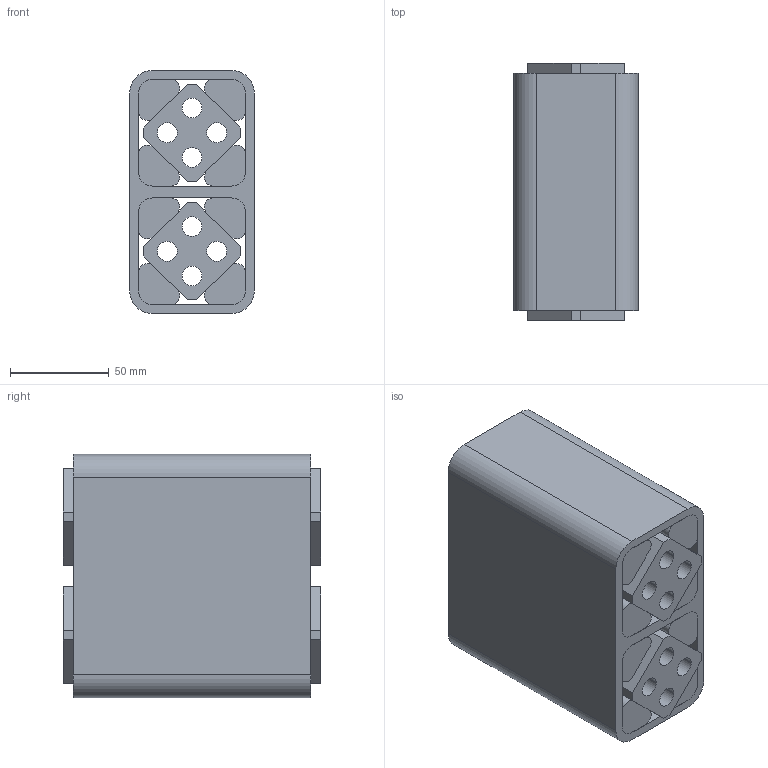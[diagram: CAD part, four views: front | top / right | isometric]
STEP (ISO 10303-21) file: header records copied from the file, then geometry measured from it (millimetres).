
FILE_DESCRIPTION((''),'2;1');
FILE_NAME('\\rostaofc\data\uw\save\daten_f\Normprogramm 3D\Gummifederelemente\DO-A38x120_01041012.stp','2004-09-28T07:40:38',('uw'),(''),'Autodesk Inventor 8','Autodesk Inventor 8','');
FILE_SCHEMA(('AUTOMOTIVE_DESIGN { 1 0 10303 214 1 1 1 1 }'));
Length unit declared in the file: millimetre
Products named in the file (4): DO-A 38x120; 4_4_3761-002; 4_4_3761-003; 4_4_3761-004
Assembly tree (11 placements, depth 2):
  DO-A 38x120
    4_4_3761-002
    4_4_3761-003  x2
    4_4_3761-004  x8
Bounding box: 63 x 130 x 123 mm (x, y, z)
Volume: 809569.9 mm3; surface area: 239178.8 mm2
Topology: 11 solids, 11 shells, 126 faces, 312 edges, 208 vertices
Faces by surface type: plane 74, cylinder 52
Entity records: 1819 total; most frequent: DIRECTION 318, CARTESIAN_POINT 297, ORIENTED_EDGE 276, EDGE_CURVE 138, AXIS2_PLACEMENT_3D 113, VERTEX_POINT 92, VECTOR 92, LINE 92
